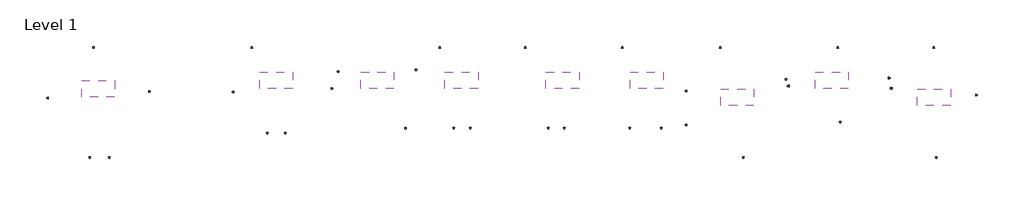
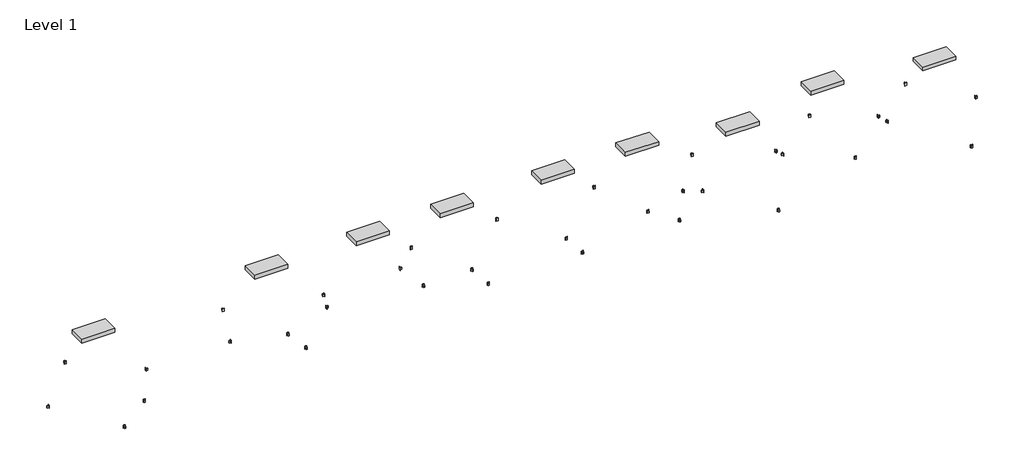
# One storey: 28 proxies, 9 light fixtures, 7 switching devices.
"""IFC4 building model written with IfcOpenShell, lengths in millimetres."""

from ifc_helpers import new_model, si_unit, origin, place, context, project, spatial, transform, mapped, element, save
from components import m_duplex_receptacle_standard_10251bba, m_troffer_corner_insert_600x1200_3lamp_6e7718cf

model = new_model("IFC4")

# Units and contexts
model_context = context("Model", 3, world=origin())
ifc_project = project(units=[si_unit("LENGTHUNIT", "METRE", prefix="MILLI")], contexts=[model_context])

# Site, building, storey
site = spatial("IfcSite", under=ifc_project)
building = spatial("IfcBuilding", under=site)
storey = spatial("IfcBuildingStorey", under=building, Name="Level 1", Elevation=0.0)

# Proxies
placement = place(None, origin())
m_duplex_receptacle_standard_shape = m_duplex_receptacle_standard_10251bba(model_context)
element("IfcBuildingElementProxy", 1, Name="M_Duplex Receptacle : Standard", ObjectType="M_Duplex Receptacle : Standard", at=placement, inside=storey, context=model_context, shape_type="MappedRepresentation", body=[
    mapped(m_duplex_receptacle_standard_shape, transform((-2526.1085653, -14490.3316017, 460.0), x_axis=(-1.0, 0.0, 0.0), y_axis=(0.0, 0.0, 1.0), z_axis=(0.0, 1.0, 0.0))),
])
element("IfcBuildingElementProxy", 2, Name="M_Duplex Receptacle : Standard", ObjectType="M_Duplex Receptacle : Standard", at=placement, inside=storey, context=model_context, shape_type="MappedRepresentation", body=[
    mapped(m_duplex_receptacle_standard_shape, transform((-2384.0267623, -10532.6941017, 460.0), x_axis=(1.0, 0.0, 0.0), y_axis=(0.0, 0.0, 1.0), z_axis=(0.0, -1.0, 0.0))),
])
element("IfcBuildingElementProxy", 3, Name="M_Duplex Receptacle : Standard", ObjectType="M_Duplex Receptacle : Standard", at=placement, inside=storey, context=model_context, shape_type="MappedRepresentation", body=[
    mapped(m_duplex_receptacle_standard_shape, transform((-378.1936728, -12122.3222582, 460.0), x_axis=(0.0, -1.0, 0.0), y_axis=(0.0, 0.0, 1.0), z_axis=(-1.0, 0.0, 0.0))),
])
element("IfcBuildingElementProxy", 4, Name="M_Duplex Receptacle : Standard", ObjectType="M_Duplex Receptacle : Standard", at=placement, inside=storey, context=model_context, shape_type="MappedRepresentation", body=[
    mapped(m_duplex_receptacle_standard_shape, transform((-4031.0311728, -12349.8590588, 460.0), x_axis=(0.0, 1.0, 0.0), y_axis=(0.0, 0.0, 1.0), z_axis=(1.0, 0.0, 0.0))),
])
element("IfcBuildingElementProxy", 5, Name="M_Duplex Receptacle : Standard", ObjectType="M_Duplex Receptacle : Standard", at=placement, inside=storey, context=model_context, shape_type="MappedRepresentation", body=[
    mapped(m_duplex_receptacle_standard_shape, transform((2688.8563272, -12132.7552617, 460.0), x_axis=(0.0, 1.0, 0.0), y_axis=(0.0, 0.0, 1.0), z_axis=(1.0, 0.0, 0.0))),
])
element("IfcBuildingElementProxy", 6, Name="M_Duplex Receptacle : Standard", ObjectType="M_Duplex Receptacle : Standard", at=placement, inside=storey, context=model_context, shape_type="MappedRepresentation", body=[
    mapped(m_duplex_receptacle_standard_shape, transform((3343.9533573, -10532.6941017, 460.0), x_axis=(1.0, 0.0, 0.0), y_axis=(0.0, 0.0, 1.0), z_axis=(0.0, -1.0, 0.0))),
])
element("IfcBuildingElementProxy", 7, Name="M_Duplex Receptacle : Standard", ObjectType="M_Duplex Receptacle : Standard", at=placement, inside=storey, context=model_context, shape_type="MappedRepresentation", body=[
    mapped(m_duplex_receptacle_standard_shape, transform((4562.4893378, -13598.1566017, 460.0), x_axis=(-1.0, 0.0, 0.0), y_axis=(0.0, 0.0, 1.0), z_axis=(0.0, 1.0, 0.0))),
])
element("IfcBuildingElementProxy", 8, Name="M_Duplex Receptacle : Standard", ObjectType="M_Duplex Receptacle : Standard", at=placement, inside=storey, context=model_context, shape_type="MappedRepresentation", body=[
    mapped(m_duplex_receptacle_standard_shape, transform((6224.2188272, -12010.9016637, 460.0), x_axis=(0.0, -1.0, 0.0), y_axis=(0.0, 0.0, 1.0), z_axis=(-1.0, 0.0, 0.0))),
])
element("IfcBuildingElementProxy", 9, Name="M_Duplex Receptacle : Standard", ObjectType="M_Duplex Receptacle : Standard", at=placement, inside=storey, context=model_context, shape_type="MappedRepresentation", body=[
    mapped(m_duplex_receptacle_standard_shape, transform((6500.4438272, -11387.4365519, 460.0), x_axis=(0.0, 1.0, 0.0), y_axis=(0.0, 0.0, 1.0), z_axis=(1.0, 0.0, 0.0))),
])
element("IfcBuildingElementProxy", 10, Name="M_Duplex Receptacle : Standard", ObjectType="M_Duplex Receptacle : Standard", at=placement, inside=storey, context=model_context, shape_type="MappedRepresentation", body=[
    mapped(m_duplex_receptacle_standard_shape, transform((9270.6313272, -11328.5700794, 460.0), x_axis=(0.0, -1.0, 0.0), y_axis=(0.0, 0.0, 1.0), z_axis=(-1.0, 0.0, 0.0))),
])
element("IfcBuildingElementProxy", 11, Name="M_Duplex Receptacle : Standard", ObjectType="M_Duplex Receptacle : Standard", at=placement, inside=storey, context=model_context, shape_type="MappedRepresentation", body=[
    mapped(m_duplex_receptacle_standard_shape, transform((10154.8778073, -10532.6941017, 460.0), x_axis=(1.0, 0.0, 0.0), y_axis=(0.0, 0.0, 1.0), z_axis=(0.0, -1.0, 0.0))),
])
element("IfcBuildingElementProxy", 12, Name="M_Duplex Receptacle : Standard", ObjectType="M_Duplex Receptacle : Standard", at=placement, inside=storey, context=model_context, shape_type="MappedRepresentation", body=[
    mapped(m_duplex_receptacle_standard_shape, transform((11261.56749, -13423.5316017, 460.0), x_axis=(-1.0, 0.0, 0.0), y_axis=(0.0, 0.0, 1.0), z_axis=(0.0, 1.0, 0.0))),
])
element("IfcBuildingElementProxy", 13, Name="M_Duplex Receptacle : Standard", ObjectType="M_Duplex Receptacle : Standard", at=placement, inside=storey, context=model_context, shape_type="MappedRepresentation", body=[
    mapped(m_duplex_receptacle_standard_shape, transform((13251.2542601, -10532.6941017, 460.0), x_axis=(1.0, 0.0, 0.0), y_axis=(0.0, 0.0, 1.0), z_axis=(0.0, -1.0, 0.0))),
])
element("IfcBuildingElementProxy", 14, Name="M_Duplex Receptacle : Standard", ObjectType="M_Duplex Receptacle : Standard", at=placement, inside=storey, context=model_context, shape_type="MappedRepresentation", body=[
    mapped(m_duplex_receptacle_standard_shape, transform((14675.8228943, -13423.5316017, 460.0), x_axis=(-1.0, 0.0, 0.0), y_axis=(0.0, 0.0, 1.0), z_axis=(0.0, 1.0, 0.0))),
])
element("IfcBuildingElementProxy", 15, Name="M_Duplex Receptacle : Standard", ObjectType="M_Duplex Receptacle : Standard", at=placement, inside=storey, context=model_context, shape_type="MappedRepresentation", body=[
    mapped(m_duplex_receptacle_standard_shape, transform((16771.4693149, -10532.6941017, 460.0), x_axis=(1.0, 0.0, 0.0), y_axis=(0.0, 0.0, 1.0), z_axis=(0.0, -1.0, 0.0))),
])
element("IfcBuildingElementProxy", 16, Name="M_Duplex Receptacle : Standard", ObjectType="M_Duplex Receptacle : Standard", at=placement, inside=storey, context=model_context, shape_type="MappedRepresentation", body=[
    mapped(m_duplex_receptacle_standard_shape, transform((18184.2646546, -13423.5316017, 460.0), x_axis=(-1.0, 0.0, 0.0), y_axis=(0.0, 0.0, 1.0), z_axis=(0.0, 1.0, 0.0))),
])
element("IfcBuildingElementProxy", 17, Name="M_Duplex Receptacle : Standard", ObjectType="M_Duplex Receptacle : Standard", at=placement, inside=storey, context=model_context, shape_type="MappedRepresentation", body=[
    mapped(m_duplex_receptacle_standard_shape, transform((19098.8438272, -12092.745192, 460.0), x_axis=(0.0, 1.0, 0.0), y_axis=(0.0, 0.0, 1.0), z_axis=(1.0, 0.0, 0.0))),
])
element("IfcBuildingElementProxy", 18, Name="M_Duplex Receptacle : Standard", ObjectType="M_Duplex Receptacle : Standard", at=placement, inside=storey, context=model_context, shape_type="MappedRepresentation", body=[
    mapped(m_duplex_receptacle_standard_shape, transform((20312.8762997, -10532.6941017, 460.0), x_axis=(1.0, 0.0, 0.0), y_axis=(0.0, 0.0, 1.0), z_axis=(0.0, -1.0, 0.0))),
])
element("IfcBuildingElementProxy", 19, Name="M_Duplex Receptacle : Standard", ObjectType="M_Duplex Receptacle : Standard", at=placement, inside=storey, context=model_context, shape_type="MappedRepresentation", body=[
    mapped(m_duplex_receptacle_standard_shape, transform((22681.8313272, -11672.3502788, 460.0), x_axis=(0.0, -1.0, 0.0), y_axis=(0.0, 0.0, 1.0), z_axis=(-1.0, 0.0, 0.0))),
])
element("IfcBuildingElementProxy", 20, Name="M_Duplex Receptacle : Standard", ObjectType="M_Duplex Receptacle : Standard", at=placement, inside=storey, context=model_context, shape_type="MappedRepresentation", body=[
    mapped(m_duplex_receptacle_standard_shape, transform((21153.6661262, -14496.6816017, 460.0), x_axis=(-1.0, 0.0, 0.0), y_axis=(0.0, 0.0, 1.0), z_axis=(0.0, 1.0, 0.0))),
])
element("IfcBuildingElementProxy", 21, Name="M_Duplex Receptacle : Standard", ObjectType="M_Duplex Receptacle : Standard", at=placement, inside=storey, context=model_context, shape_type="MappedRepresentation", body=[
    mapped(m_duplex_receptacle_standard_shape, transform((22805.6563272, -11921.4731903, 460.0), x_axis=(0.0, 1.0, 0.0), y_axis=(0.0, 0.0, 1.0), z_axis=(1.0, 0.0, 0.0))),
])
element("IfcBuildingElementProxy", 22, Name="M_Duplex Receptacle : Standard", ObjectType="M_Duplex Receptacle : Standard", at=placement, inside=storey, context=model_context, shape_type="MappedRepresentation", body=[
    mapped(m_duplex_receptacle_standard_shape, transform((24579.1061603, -10532.6941017, 460.0), x_axis=(1.0, 0.0, 0.0), y_axis=(0.0, 0.0, 1.0), z_axis=(0.0, -1.0, 0.0))),
])
element("IfcBuildingElementProxy", 23, Name="M_Duplex Receptacle : Standard", ObjectType="M_Duplex Receptacle : Standard", at=placement, inside=storey, context=model_context, shape_type="MappedRepresentation", body=[
    mapped(m_duplex_receptacle_standard_shape, transform((26415.6313272, -11625.6397328, 460.0), x_axis=(0.0, -1.0, 0.0), y_axis=(0.0, 0.0, 1.0), z_axis=(-1.0, 0.0, 0.0))),
])
element("IfcBuildingElementProxy", 24, Name="M_Duplex Receptacle : Standard", ObjectType="M_Duplex Receptacle : Standard", at=placement, inside=storey, context=model_context, shape_type="MappedRepresentation", body=[
    mapped(m_duplex_receptacle_standard_shape, transform((24672.5272521, -13207.6316017, 460.0), x_axis=(-1.0, 0.0, 0.0), y_axis=(0.0, 0.0, 1.0), z_axis=(0.0, 1.0, 0.0))),
])
element("IfcBuildingElementProxy", 25, Name="M_Duplex Receptacle : Standard", ObjectType="M_Duplex Receptacle : Standard", at=placement, inside=storey, context=model_context, shape_type="MappedRepresentation", body=[
    mapped(m_duplex_receptacle_standard_shape, transform((26539.4563272, -11999.3241002, 460.0), x_axis=(0.0, 1.0, 0.0), y_axis=(0.0, 0.0, 1.0), z_axis=(1.0, 0.0, 0.0))),
])
element("IfcBuildingElementProxy", 26, Name="M_Duplex Receptacle : Standard", ObjectType="M_Duplex Receptacle : Standard", at=placement, inside=storey, context=model_context, shape_type="MappedRepresentation", body=[
    mapped(m_duplex_receptacle_standard_shape, transform((28051.2567403, -10532.6941017, 460.0), x_axis=(1.0, 0.0, 0.0), y_axis=(0.0, 0.0, 1.0), z_axis=(0.0, -1.0, 0.0))),
])
element("IfcBuildingElementProxy", 27, Name="M_Duplex Receptacle : Standard", ObjectType="M_Duplex Receptacle : Standard", at=placement, inside=storey, context=model_context, shape_type="MappedRepresentation", body=[
    mapped(m_duplex_receptacle_standard_shape, transform((29582.6938272, -12248.4470118, 460.0), x_axis=(0.0, -1.0, 0.0), y_axis=(0.0, 0.0, 1.0), z_axis=(-1.0, 0.0, 0.0))),
])
element("IfcBuildingElementProxy", 28, Name="M_Duplex Receptacle : Standard", ObjectType="M_Duplex Receptacle : Standard", at=placement, inside=storey, context=model_context, shape_type="MappedRepresentation", body=[
    mapped(m_duplex_receptacle_standard_shape, transform((28144.6778321, -14496.6816017, 460.0), x_axis=(-1.0, 0.0, 0.0), y_axis=(0.0, 0.0, 1.0), z_axis=(0.0, 1.0, 0.0))),
])

# Light fixtures
m_troffer_corner_insert_600x1200_3lamp_shape = m_troffer_corner_insert_600x1200_3lamp_6e7718cf(model_context)
element("IfcLightFixture", 29, ObjectType="M_Troffer Corner Insert : 600x1200 3Lamp", at=placement, inside=storey, context=model_context, shape_type="MappedRepresentation", body=[
    mapped(m_troffer_corner_insert_600x1200_3lamp_shape, transform((-2214.2124228, -12023.3941017, 0.0), x_axis=(1.0, 0.0, 0.0), y_axis=(0.0, 1.0, 0.0), z_axis=(0.0, 0.0, 1.0))),
])
element("IfcLightFixture", 30, ObjectType="M_Troffer Corner Insert : 600x1200 3Lamp", at=placement, inside=storey, context=model_context, shape_type="MappedRepresentation", body=[
    mapped(m_troffer_corner_insert_600x1200_3lamp_shape, transform((4231.8313272, -11708.2753517, 0.0), x_axis=(1.0, 0.0, 0.0), y_axis=(0.0, 1.0, 0.0), z_axis=(0.0, 0.0, 1.0))),
])
element("IfcLightFixture", 31, ObjectType="M_Troffer Corner Insert : 600x1200 3Lamp", at=placement, inside=storey, context=model_context, shape_type="MappedRepresentation", body=[
    mapped(m_troffer_corner_insert_600x1200_3lamp_shape, transform((7899.0313272, -11708.2753517, 0.0), x_axis=(1.0, 0.0, 0.0), y_axis=(0.0, 1.0, 0.0), z_axis=(0.0, 0.0, 1.0))),
])
element("IfcLightFixture", 32, ObjectType="M_Troffer Corner Insert : 600x1200 3Lamp", at=placement, inside=storey, context=model_context, shape_type="MappedRepresentation", body=[
    mapped(m_troffer_corner_insert_600x1200_3lamp_shape, transform((10947.0313272, -11708.2753517, 0.0), x_axis=(1.0, 0.0, 0.0), y_axis=(0.0, 1.0, 0.0), z_axis=(0.0, 0.0, 1.0))),
])
element("IfcLightFixture", 33, ObjectType="M_Troffer Corner Insert : 600x1200 3Lamp", at=placement, inside=storey, context=model_context, shape_type="MappedRepresentation", body=[
    mapped(m_troffer_corner_insert_600x1200_3lamp_shape, transform((14604.6313272, -11708.2753517, 0.0), x_axis=(1.0, 0.0, 0.0), y_axis=(0.0, 1.0, 0.0), z_axis=(0.0, 0.0, 1.0))),
])
element("IfcLightFixture", 34, ObjectType="M_Troffer Corner Insert : 600x1200 3Lamp", at=placement, inside=storey, context=model_context, shape_type="MappedRepresentation", body=[
    mapped(m_troffer_corner_insert_600x1200_3lamp_shape, transform((17652.6313272, -11708.2753517, 0.0), x_axis=(1.0, 0.0, 0.0), y_axis=(0.0, 1.0, 0.0), z_axis=(0.0, 0.0, 1.0))),
])
element("IfcLightFixture", 35, ObjectType="M_Troffer Corner Insert : 600x1200 3Lamp", at=placement, inside=storey, context=model_context, shape_type="MappedRepresentation", body=[
    mapped(m_troffer_corner_insert_600x1200_3lamp_shape, transform((20935.5813272, -12323.3941017, 0.0), x_axis=(1.0, 0.0, 0.0), y_axis=(0.0, 1.0, 0.0), z_axis=(0.0, 0.0, 1.0))),
])
element("IfcLightFixture", 36, ObjectType="M_Troffer Corner Insert : 600x1200 3Lamp", at=placement, inside=storey, context=model_context, shape_type="MappedRepresentation", body=[
    mapped(m_troffer_corner_insert_600x1200_3lamp_shape, transform((24358.2313272, -11708.2753517, 0.0), x_axis=(1.0, 0.0, 0.0), y_axis=(0.0, 1.0, 0.0), z_axis=(0.0, 0.0, 1.0))),
])
element("IfcLightFixture", 37, ObjectType="M_Troffer Corner Insert : 600x1200 3Lamp", at=placement, inside=storey, context=model_context, shape_type="MappedRepresentation", body=[
    mapped(m_troffer_corner_insert_600x1200_3lamp_shape, transform((28061.0750772, -12323.3941017, 0.0), x_axis=(1.0, 0.0, 0.0), y_axis=(0.0, 1.0, 0.0), z_axis=(0.0, 0.0, 1.0))),
])

# Switching devices
element("IfcSwitchingDevice", 38, ObjectType="M_Lighting Switches : Single Pole", at=placement, inside=storey, context=model_context, shape_type="MappedRepresentation", body=[
    mapped(m_duplex_receptacle_standard_shape, transform((-1810.9170125, -14490.3316017, 1200.0), x_axis=(-1.0, 0.0, 0.0), y_axis=(0.0, 0.0, 1.0), z_axis=(0.0, 1.0, 0.0))),
])
element("IfcSwitchingDevice", 39, ObjectType="M_Lighting Switches : Single Pole", at=placement, inside=storey, context=model_context, shape_type="MappedRepresentation", body=[
    mapped(m_duplex_receptacle_standard_shape, transform((3913.5382408, -13598.1566017, 1200.0), x_axis=(-1.0, 0.0, 0.0), y_axis=(0.0, 0.0, 1.0), z_axis=(0.0, 1.0, 0.0))),
])
element("IfcSwitchingDevice", 40, ObjectType="M_Lighting Switches : Single Pole", at=placement, inside=storey, context=model_context, shape_type="MappedRepresentation", body=[
    mapped(m_duplex_receptacle_standard_shape, transform((8917.288696, -13423.5316017, 1200.0), x_axis=(-1.0, 0.0, 0.0), y_axis=(0.0, 0.0, 1.0), z_axis=(0.0, 1.0, 0.0))),
])
element("IfcSwitchingDevice", 41, ObjectType="M_Lighting Switches : Single Pole", at=placement, inside=storey, context=model_context, shape_type="MappedRepresentation", body=[
    mapped(m_duplex_receptacle_standard_shape, transform((10667.571777, -13423.5316017, 1200.0), x_axis=(-1.0, 0.0, 0.0), y_axis=(0.0, 0.0, 1.0), z_axis=(0.0, 1.0, 0.0))),
])
element("IfcSwitchingDevice", 42, ObjectType="M_Lighting Switches : Single Pole", at=placement, inside=storey, context=model_context, shape_type="MappedRepresentation", body=[
    mapped(m_duplex_receptacle_standard_shape, transform((14085.7716764, -13423.5316017, 1200.0), x_axis=(-1.0, 0.0, 0.0), y_axis=(0.0, 0.0, 1.0), z_axis=(0.0, 1.0, 0.0))),
])
element("IfcSwitchingDevice", 43, ObjectType="M_Lighting Switches : Single Pole", at=placement, inside=storey, context=model_context, shape_type="MappedRepresentation", body=[
    mapped(m_duplex_receptacle_standard_shape, transform((17036.8525774, -13423.5316017, 1200.0), x_axis=(-1.0, 0.0, 0.0), y_axis=(0.0, 0.0, 1.0), z_axis=(0.0, 1.0, 0.0))),
])
element("IfcSwitchingDevice", 44, ObjectType="M_Lighting Switches : Single Pole", at=placement, inside=storey, context=model_context, shape_type="MappedRepresentation", body=[
    mapped(m_duplex_receptacle_standard_shape, transform((19098.8438272, -13327.2998818, 1200.0), x_axis=(0.0, 1.0, 0.0), y_axis=(0.0, 0.0, 1.0), z_axis=(1.0, 0.0, 0.0))),
])

save(model, "model.ifc")
